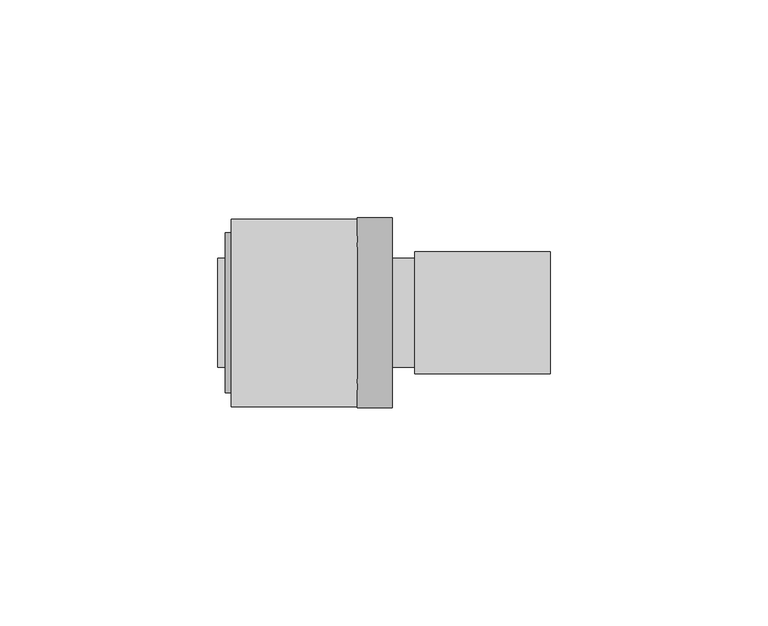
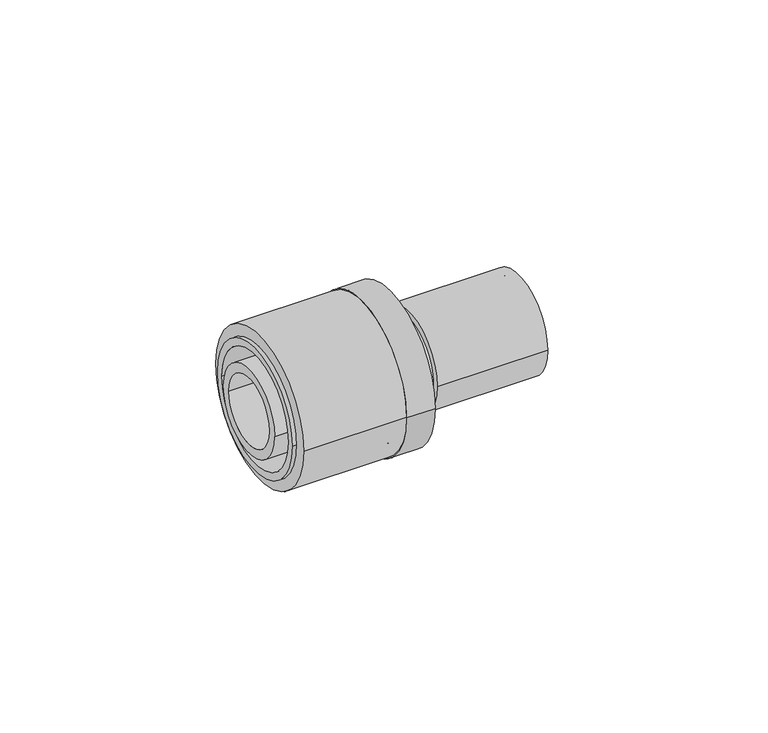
"""IFC4 building model written with IfcOpenShell, lengths in millimetres: pipe fitting geometry, FASTLOC Copper press adapter RX+ : FSL RX+ AT."""

from ifc_helpers import new_model, si_unit, point, frame, origin, origin_2d, place, context, project, spatial, polyline, circle_curve, trimmed, segment, composite_curve, outline, extrude, source, transform, mapped, element, save
from ifc_brep_helpers import plane_surface, cylinder_surface, revolved_surface, advanced_brep


def pipe_fitting_fe659845(model_context):
    return source(origin(), model_context, "Body", "SolidModel", [
        extrude(outline(composite_curve([segment(trimmed(circle_curve(origin_2d(), 21.5), [point((21.5, 0.0))], [point((-21.5, 0.0))], False, "CARTESIAN"), True, "CONTINUOUS"), segment(trimmed(circle_curve(origin_2d(), 21.5), [point((-21.5, 0.0))], [point((21.5, 0.0))], False, "CARTESIAN"), True, "CONTINUOUS")], self_intersect=False), holes=[composite_curve([segment(trimmed(circle_curve(origin_2d(), 16.85), [point((16.85, 0.0))], [point((-16.85, 0.0))], True, "CARTESIAN"), True, "CONTINUOUS"), segment(trimmed(circle_curve(origin_2d(), 16.85), [point((-16.85, 0.0))], [point((16.85, 0.0))], True, "CARTESIAN"), True, "CONTINUOUS")], self_intersect=False)]), frame((-42.1, 0.0, 0.0), z_axis=(1.0, 0.0, 0.0), x_axis=(0.0, 1.0, 0.0)), (0.0, 0.0, 1.0), 29.0),
        advanced_brep(
        [(-13.1, -21.8, 0.0), (-13.1, 21.8, 0.0), (-5.1, 21.8, 0.0), (-5.1, -21.8, 0.0), (-43.4, -18.35, 0.0), (-43.4, 18.35, 0.0), (-13.1, 18.35, 0.0), (-13.1, -18.35, 0.0), (-5.1, -16.2, 0.0), (-5.1, 16.2, 0.0), (-43.4, 16.2, 0.0), (-43.4, -16.2, 0.0)],
        [
            (0, 1, circle_curve(frame((-13.1, 0.0, 0.0), z_axis=(1.0, 0.0, 0.0), x_axis=(0.0, 1.0, 0.0)), 21.8)),
            (1, 2),
            (2, 3, circle_curve(frame((-5.1, 0.0, 0.0), z_axis=(-1.0, 0.0, 0.0), x_axis=(0.0, 1.0, 0.0)), 21.8)),
            (3, 0),
            (4, 5, circle_curve(frame((-43.4, 0.0, 0.0), z_axis=(1.0, 0.0, 0.0), x_axis=(0.0, 1.0, 0.0)), 18.35)),
            (5, 6),
            (6, 7, circle_curve(frame((-13.1, 0.0, 0.0), z_axis=(-1.0, 0.0, 0.0), x_axis=(0.0, 1.0, 0.0)), 18.35)),
            (7, 4),
            (8, 9, circle_curve(frame((-5.1, 0.0, 0.0), z_axis=(1.0, 0.0, 0.0), x_axis=(0.0, 1.0, 0.0)), 16.2)),
            (9, 10),
            (10, 11, circle_curve(frame((-43.4, 0.0, 0.0), z_axis=(-1.0, 0.0, 0.0), x_axis=(0.0, 1.0, 0.0)), 16.2)),
            (11, 8),
            (1, 0, circle_curve(frame((-13.1, 0.0, 0.0), z_axis=(1.0, 0.0, 0.0), x_axis=(0.0, -1.0, 0.0)), 21.8)),
            (3, 2, circle_curve(frame((-5.1, 0.0, 0.0), z_axis=(-1.0, 0.0, 0.0), x_axis=(0.0, -1.0, 0.0)), 21.8)),
            (6, 7, circle_curve(frame((-13.1, 0.0, 0.0), z_axis=(1.0, 0.0, 0.0), x_axis=(0.0, -1.0, 0.0)), 18.35)),
            (5, 4, circle_curve(frame((-43.4, 0.0, 0.0), z_axis=(1.0, 0.0, 0.0), x_axis=(0.0, -1.0, 0.0)), 18.35)),
            (10, 11, circle_curve(frame((-43.4, 0.0, 0.0), z_axis=(1.0, 0.0, 0.0), x_axis=(0.0, -1.0, 0.0)), 16.2)),
            (9, 8, circle_curve(frame((-5.1, 0.0, 0.0), z_axis=(1.0, 0.0, 0.0), x_axis=(0.0, -1.0, 0.0)), 16.2)),
        ],
        [
            cylinder_surface(frame((-5.1, 0.0, 0.0), z_axis=(-1.0, 0.0, 0.0), x_axis=(0.0, 1.0, 0.0)), 21.8),
            cylinder_surface(frame((-5.1, 0.0, 0.0), z_axis=(-1.0, 0.0, 0.0), x_axis=(0.0, 1.0, 0.0)), 18.35),
            revolved_surface(polyline([(-43.4, 16.2, 0.0), (-5.1, 16.2, 0.0)]), (-5.1, 0.0, 0.0), (-1.0, 0.0, 0.0)),
            cylinder_surface(frame((-5.1, 0.0, 0.0), z_axis=(-1.0, 0.0, 0.0), x_axis=(0.0, -1.0, 0.0)), 21.8),
            plane_surface(frame((-13.1, 0.0, 0.0), z_axis=(-1.0, 0.0, 0.0), x_axis=(0.0, -1.0, 0.0))),
            cylinder_surface(frame((-5.1, 0.0, 0.0), z_axis=(-1.0, 0.0, 0.0), x_axis=(0.0, -1.0, 0.0)), 18.35),
            plane_surface(frame((-43.4, 0.0, 0.0), z_axis=(-1.0, 0.0, 0.0), x_axis=(0.0, -1.0, 0.0))),
            revolved_surface(polyline([(-43.4, -16.2, 0.0), (-5.1, -16.2, 0.0)]), (-5.1, 0.0, 0.0), (-1.0, 0.0, 0.0)),
            plane_surface(frame((-5.1, 0.0, 0.0), z_axis=(1.0, 0.0, 0.0), x_axis=(0.0, -1.0, 0.0))),
        ],
        [
            (0, [[1, 2, 3, 4]]),
            (1, [[5, 6, 7, 8]]),
            (2, [[9, 10, 11, 12]]),
            (3, [[13, -4, 14, -2]]),
            (4, [[-13, -1], [15, -7]]),
            (5, [[16, -8, -15, -6]]),
            (6, [[-16, -5], [17, -11]]),
            (7, [[18, -12, -17, -10]]),
            (8, [[-14, -3], [-18, -9]]),
        ],
    ),
        extrude(outline(composite_curve([segment(trimmed(circle_curve(origin_2d(), 14.0), [point((-14.0, 0.0))], [point((14.0, 0.0))], False, "CARTESIAN"), True, "CONTINUOUS"), segment(trimmed(circle_curve(origin_2d(), 14.0), [point((14.0, 0.0))], [point((-14.0, 0.0))], False, "CARTESIAN"), True, "CONTINUOUS")], self_intersect=False), holes=[composite_curve([segment(trimmed(circle_curve(origin_2d(), 11.75), [point((-11.75, 0.0))], [point((11.75, 0.0))], True, "CARTESIAN"), True, "CONTINUOUS"), segment(trimmed(circle_curve(origin_2d(), 11.75), [point((11.75, 0.0))], [point((-11.75, 0.0))], True, "CARTESIAN"), True, "CONTINUOUS")], self_intersect=False)]), frame((0.0, 0.0, 0.0), z_axis=(1.0, 0.0, 0.0), x_axis=(0.0, 1.0, 0.0)), (0.0, 0.0, 1.0), 31.1),
        advanced_brep(
        [(-13.1, 12.5, 0.0), (-13.1, -12.5, 0.0), (-45.1, -12.5, 0.0), (-45.1, 12.5, 0.0), (-10.1, 14.1, 0.0), (-10.1, -14.1, 0.0), (-13.1, -14.1, 0.0), (-13.1, 14.1, 0.0), (0.0, 12.5, 0.0), (0.0, -12.5, 0.0), (-10.1, -12.5, 0.0), (-10.1, 12.5, 0.0), (-45.1, 9.85, 0.0), (-45.1, -9.85, 0.0), (0.0, -9.85, 0.0), (0.0, 9.85, 0.0)],
        [
            (0, 1, circle_curve(frame((-13.1, 0.0, 0.0), z_axis=(-1.0, 0.0, 0.0), x_axis=(0.0, -1.0, 0.0)), 12.5)),
            (1, 2),
            (2, 3, circle_curve(frame((-45.1, 0.0, 0.0), z_axis=(1.0, 0.0, 0.0), x_axis=(0.0, -1.0, 0.0)), 12.5)),
            (3, 0),
            (4, 5, circle_curve(frame((-10.1, 0.0, 0.0), z_axis=(-1.0, 0.0, 0.0), x_axis=(0.0, -1.0, 0.0)), 14.1)),
            (5, 6),
            (6, 7, circle_curve(frame((-13.1, 0.0, 0.0), z_axis=(1.0, 0.0, 0.0), x_axis=(0.0, -1.0, 0.0)), 14.1)),
            (7, 4),
            (8, 9, circle_curve(frame((0.0, 0.0, 0.0), z_axis=(-1.0, 0.0, 0.0), x_axis=(0.0, -1.0, 0.0)), 12.5)),
            (9, 10),
            (10, 11, circle_curve(frame((-10.1, 0.0, 0.0), z_axis=(1.0, 0.0, 0.0), x_axis=(0.0, -1.0, 0.0)), 12.5)),
            (11, 8),
            (12, 13, circle_curve(frame((-45.1, 0.0, 0.0), z_axis=(-1.0, 0.0, 0.0), x_axis=(0.0, -1.0, 0.0)), 9.85)),
            (13, 14),
            (14, 15, circle_curve(frame((0.0, 0.0, 0.0), z_axis=(1.0, 0.0, 0.0), x_axis=(0.0, -1.0, 0.0)), 9.85)),
            (15, 12),
            (2, 3, circle_curve(frame((-45.1, 0.0, 0.0), z_axis=(-1.0, 0.0, 0.0), x_axis=(0.0, 1.0, 0.0)), 12.5)),
            (12, 13, circle_curve(frame((-45.1, 0.0, 0.0), z_axis=(1.0, 0.0, 0.0), x_axis=(0.0, 1.0, 0.0)), 9.85)),
            (1, 0, circle_curve(frame((-13.1, 0.0, 0.0), z_axis=(-1.0, 0.0, 0.0), x_axis=(0.0, 1.0, 0.0)), 12.5)),
            (6, 7, circle_curve(frame((-13.1, 0.0, 0.0), z_axis=(-1.0, 0.0, 0.0), x_axis=(0.0, 1.0, 0.0)), 14.1)),
            (5, 4, circle_curve(frame((-10.1, 0.0, 0.0), z_axis=(-1.0, 0.0, 0.0), x_axis=(0.0, 1.0, 0.0)), 14.1)),
            (10, 11, circle_curve(frame((-10.1, 0.0, 0.0), z_axis=(-1.0, 0.0, 0.0), x_axis=(0.0, 1.0, 0.0)), 12.5)),
            (9, 8, circle_curve(frame((0.0, 0.0, 0.0), z_axis=(-1.0, 0.0, 0.0), x_axis=(0.0, 1.0, 0.0)), 12.5)),
            (14, 15, circle_curve(frame((0.0, 0.0, 0.0), z_axis=(-1.0, 0.0, 0.0), x_axis=(0.0, 1.0, 0.0)), 9.85)),
        ],
        [
            cylinder_surface(frame((0.0, 0.0, 0.0), z_axis=(1.0, 0.0, 0.0), x_axis=(0.0, -1.0, 0.0)), 12.5),
            cylinder_surface(frame((0.0, 0.0, 0.0), z_axis=(1.0, 0.0, 0.0), x_axis=(0.0, -1.0, 0.0)), 14.1),
            revolved_surface(polyline([(0.0, -9.85, 0.0), (-45.1, -9.85, 0.0)]), (0.0, 0.0, 0.0), (1.0, 0.0, 0.0)),
            plane_surface(frame((-45.1, 0.0, 0.0), z_axis=(-1.0, 0.0, 0.0), x_axis=(0.0, 1.0, 0.0))),
            cylinder_surface(frame((0.0, 0.0, 0.0), z_axis=(1.0, 0.0, 0.0), x_axis=(0.0, 1.0, 0.0)), 12.5),
            plane_surface(frame((-13.1, 0.0, 0.0), z_axis=(-1.0, 0.0, 0.0), x_axis=(0.0, 1.0, 0.0))),
            cylinder_surface(frame((0.0, 0.0, 0.0), z_axis=(1.0, 0.0, 0.0), x_axis=(0.0, 1.0, 0.0)), 14.1),
            plane_surface(frame((-10.1, 0.0, 0.0), z_axis=(1.0, 0.0, 0.0), x_axis=(0.0, 1.0, 0.0))),
            plane_surface(frame((0.0, 0.0, 0.0), z_axis=(1.0, 0.0, 0.0), x_axis=(0.0, 1.0, 0.0))),
            revolved_surface(polyline([(0.0, 9.85, 0.0), (-45.1, 9.85, 0.0)]), (0.0, 0.0, 0.0), (1.0, 0.0, 0.0)),
        ],
        [
            (0, [[1, 2, 3, 4]]),
            (1, [[5, 6, 7, 8]]),
            (0, [[9, 10, 11, 12]]),
            (2, [[13, 14, 15, 16]]),
            (3, [[17, -3], [18, -13]]),
            (4, [[19, -4, -17, -2]]),
            (5, [[20, -7], [-19, -1]]),
            (6, [[21, -8, -20, -6]]),
            (7, [[-21, -5], [22, -11]]),
            (4, [[23, -12, -22, -10]]),
            (8, [[-23, -9], [24, -15]]),
            (9, [[-18, -16, -24, -14]]),
        ],
    ),
    ])


if __name__ == "__main__":
    model = new_model("IFC4")
    model_context = context("Model", 3, world=origin())
    ifc_project = project(units=[si_unit("LENGTHUNIT", "METRE", prefix="MILLI")], contexts=[model_context])
    site = spatial("IfcSite", under=ifc_project)
    building = spatial("IfcBuilding", under=site)
    placement = place(None, origin())
    pipe_fitting_shape = pipe_fitting_fe659845(model_context)
    element("IfcPipeFitting", 1, ObjectType="FASTLOC Copper press adapter RX+ : FSL RX+ AT", at=placement, inside=building, context=model_context, shape_type="MappedRepresentation", body=[
        mapped(pipe_fitting_shape, transform((0.0, 0.0, 0.0), x_axis=(1.0, 0.0, 0.0), y_axis=(0.0, 1.0, 0.0), z_axis=(0.0, 0.0, 1.0))),
    ])
    save(model, "model.ifc")
